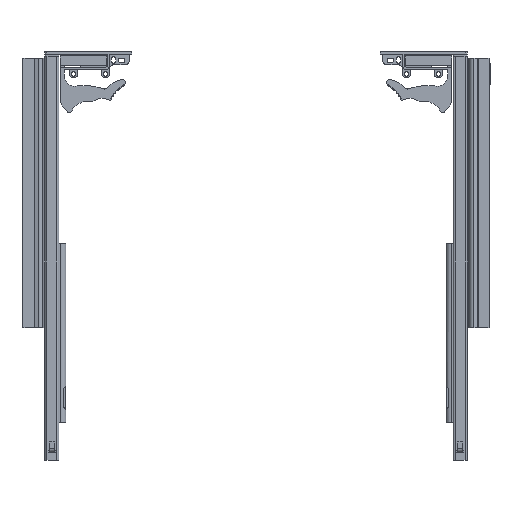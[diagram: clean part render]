
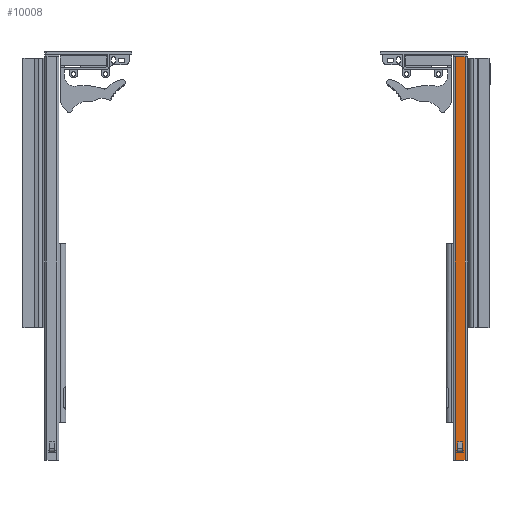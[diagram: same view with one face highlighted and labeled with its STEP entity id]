
A CAD part, front view. The second image highlights one B-rep face of the part: STEP entity #10008.
In plain terms, the highlighted planar face has unit normal (0, -1, 0).
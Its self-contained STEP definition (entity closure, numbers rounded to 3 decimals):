
#215=FACE_BOUND('',#1359,.T.);
#701=FACE_OUTER_BOUND('',#1358,.T.);
#1358=EDGE_LOOP('',(#7687,#7688,#7689,#7690));
#1359=EDGE_LOOP('',(#7691,#7692,#7693,#7694));
#2093=LINE('',#15508,#3073);
#2097=LINE('',#15515,#3077);
#2100=LINE('',#15547,#3080);
#2102=LINE('',#15553,#3082);
#2133=LINE('',#15640,#3113);
#2134=LINE('',#15643,#3114);
#2135=LINE('',#15645,#3115);
#2136=LINE('',#15646,#3116);
#3073=VECTOR('',#12531,10.);
#3077=VECTOR('',#12537,10.);
#3080=VECTOR('',#12542,10.);
#3082=VECTOR('',#12552,10.);
#3113=VECTOR('',#12635,10.);
#3114=VECTOR('',#12638,10.);
#3115=VECTOR('',#12639,10.);
#3116=VECTOR('',#12640,10.);
#4476=VERTEX_POINT('',#15505);
#4477=VERTEX_POINT('',#15507);
#4479=VERTEX_POINT('',#15513);
#4480=VERTEX_POINT('',#15545);
#4509=VERTEX_POINT('',#15636);
#4510=VERTEX_POINT('',#15638);
#4511=VERTEX_POINT('',#15642);
#4512=VERTEX_POINT('',#15644);
#5602=EDGE_CURVE('',#4477,#4476,#2093,.T.);
#5606=EDGE_CURVE('',#4476,#4479,#2097,.T.);
#5610=EDGE_CURVE('',#4479,#4480,#2100,.T.);
#5612=EDGE_CURVE('',#4480,#4477,#2102,.T.);
#5655=EDGE_CURVE('',#4509,#4510,#2133,.T.);
#5656=EDGE_CURVE('',#4509,#4511,#2134,.T.);
#5657=EDGE_CURVE('',#4512,#4510,#2135,.T.);
#5658=EDGE_CURVE('',#4511,#4512,#2136,.T.);
#7687=ORIENTED_EDGE('',*,*,#5656,.F.);
#7688=ORIENTED_EDGE('',*,*,#5655,.T.);
#7689=ORIENTED_EDGE('',*,*,#5657,.F.);
#7690=ORIENTED_EDGE('',*,*,#5658,.F.);
#7691=ORIENTED_EDGE('',*,*,#5602,.T.);
#7692=ORIENTED_EDGE('',*,*,#5606,.T.);
#7693=ORIENTED_EDGE('',*,*,#5610,.T.);
#7694=ORIENTED_EDGE('',*,*,#5612,.T.);
#9326=PLANE('',#10789);
#10008=ADVANCED_FACE('',(#701,#215),#9326,.T.);
#10789=AXIS2_PLACEMENT_3D('',#15641,#12636,#12637);
#12531=DIRECTION('',(0.,0.,-1.));
#12537=DIRECTION('',(-1.,0.,0.));
#12542=DIRECTION('',(0.,0.,1.));
#12552=DIRECTION('',(1.,0.,0.));
#12635=DIRECTION('',(0.,0.,-1.));
#12636=DIRECTION('center_axis',(0.,-1.,0.));
#12637=DIRECTION('ref_axis',(-1.,0.,0.));
#12638=DIRECTION('',(1.,0.,0.));
#12639=DIRECTION('',(-1.,0.,0.));
#12640=DIRECTION('',(0.,0.,-1.));
#15505=CARTESIAN_POINT('',(30.652,8.,-288.597));
#15507=CARTESIAN_POINT('',(30.652,8.,-287.097));
#15508=CARTESIAN_POINT('',(30.652,8.,-89.597));
#15513=CARTESIAN_POINT('',(24.034,8.,-288.597));
#15515=CARTESIAN_POINT('',(29.843,8.,-288.597));
#15545=CARTESIAN_POINT('',(24.034,8.,-287.097));
#15547=CARTESIAN_POINT('',(24.034,8.,-89.597));
#15553=CARTESIAN_POINT('',(29.843,8.,-287.097));
#15636=CARTESIAN_POINT('',(22.343,8.,107.903));
#15638=CARTESIAN_POINT('',(22.343,8.,-297.097));
#15640=CARTESIAN_POINT('',(22.343,8.,107.903));
#15641=CARTESIAN_POINT('Origin',(32.343,8.,107.903));
#15642=CARTESIAN_POINT('',(32.343,8.,107.903));
#15643=CARTESIAN_POINT('',(22.343,8.,107.903));
#15644=CARTESIAN_POINT('',(32.343,8.,-297.097));
#15645=CARTESIAN_POINT('',(22.343,8.,-297.097));
#15646=CARTESIAN_POINT('',(32.343,8.,107.903));
